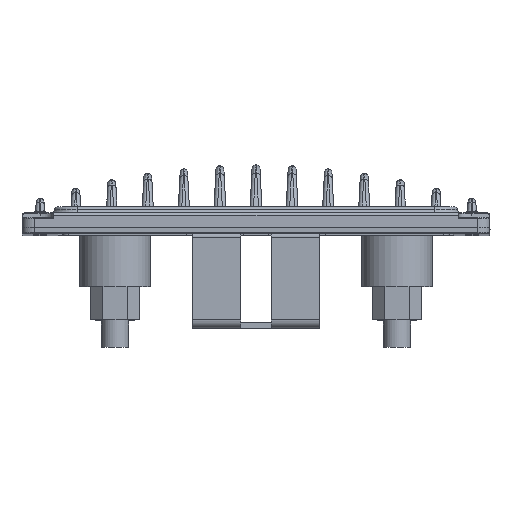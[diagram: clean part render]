
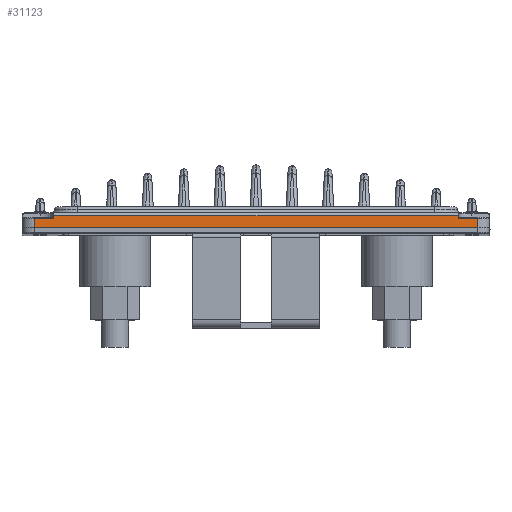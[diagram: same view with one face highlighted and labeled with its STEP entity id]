
A CAD part, top view. The second image highlights one B-rep face of the part: STEP entity #31123.
In plain terms, the highlighted planar face has unit normal (0, 0.018, 1).
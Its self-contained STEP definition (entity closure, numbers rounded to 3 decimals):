
#1328=LINE('',#44833,#2961);
#1403=LINE('',#47988,#3036);
#1404=LINE('',#48156,#3037);
#1407=LINE('',#48180,#3040);
#1408=LINE('',#48182,#3041);
#1409=LINE('',#48184,#3042);
#1410=LINE('',#48186,#3043);
#1411=LINE('',#48188,#3044);
#2961=VECTOR('',#35062,1000.);
#3036=VECTOR('',#35401,1000.);
#3037=VECTOR('',#35408,1000.);
#3040=VECTOR('',#35417,1000.);
#3041=VECTOR('',#35420,1000.);
#3042=VECTOR('',#35421,1000.);
#3043=VECTOR('',#35422,1000.);
#3044=VECTOR('',#35423,1000.);
#4425=PLANE('',#32712);
#5697=ORIENTED_EDGE('',*,*,#12182,.F.);
#5698=ORIENTED_EDGE('',*,*,#12178,.T.);
#5699=ORIENTED_EDGE('',*,*,#12188,.T.);
#5700=ORIENTED_EDGE('',*,*,#12189,.F.);
#5701=ORIENTED_EDGE('',*,*,#12190,.F.);
#5702=ORIENTED_EDGE('',*,*,#12191,.T.);
#5703=ORIENTED_EDGE('',*,*,#11990,.F.);
#5704=ORIENTED_EDGE('',*,*,#12187,.T.);
#11990=EDGE_CURVE('',#15308,#15309,#1328,.T.);
#12178=EDGE_CURVE('',#15432,#15431,#1403,.T.);
#12182=EDGE_CURVE('',#15432,#15433,#1404,.T.);
#12187=EDGE_CURVE('',#15308,#15433,#1407,.T.);
#12188=EDGE_CURVE('',#15431,#15435,#1408,.T.);
#12189=EDGE_CURVE('',#15436,#15435,#1409,.T.);
#12190=EDGE_CURVE('',#15437,#15436,#1410,.T.);
#12191=EDGE_CURVE('',#15437,#15309,#1411,.T.);
#15308=VERTEX_POINT('',#44808);
#15309=VERTEX_POINT('',#44834);
#15431=VERTEX_POINT('',#47956);
#15432=VERTEX_POINT('',#47989);
#15433=VERTEX_POINT('',#48157);
#15435=VERTEX_POINT('',#48183);
#15436=VERTEX_POINT('',#48185);
#15437=VERTEX_POINT('',#48187);
#18138=EDGE_LOOP('',(#5697,#5698,#5699,#5700,#5701,#5702,#5703,#5704));
#19707=FACE_BOUND('',#18138,.T.);
#31123=ADVANCED_FACE('',(#19707),#4425,.T.);
#32712=AXIS2_PLACEMENT_3D('',#48181,#35418,#35419);
#35062=DIRECTION('',(1.,0.,0.));
#35401=DIRECTION('',(-0.017,-1.,0.017));
#35408=DIRECTION('',(1.,0.,0.));
#35417=DIRECTION('',(-0.087,-0.996,0.017));
#35418=DIRECTION('',(0.,0.017,1.));
#35419=DIRECTION('',(1.,0.,0.));
#35420=DIRECTION('',(1.,0.,0.));
#35421=DIRECTION('',(0.017,-1.,0.017));
#35422=DIRECTION('',(1.,0.,0.));
#35423=DIRECTION('',(-0.087,0.996,-0.017));
#44808=CARTESIAN_POINT('',(-67.004,3.017,184.933));
#44833=CARTESIAN_POINT('',(-67.004,3.017,184.933));
#44834=CARTESIAN_POINT('',(67.004,3.017,184.933));
#47956=CARTESIAN_POINT('',(-73.501,-0.8,185.));
#47988=CARTESIAN_POINT('',(-73.448,2.205,184.948));
#47989=CARTESIAN_POINT('',(-73.448,2.205,184.948));
#48156=CARTESIAN_POINT('',(-73.448,2.205,184.948));
#48157=CARTESIAN_POINT('',(-67.075,2.205,184.948));
#48180=CARTESIAN_POINT('',(-67.004,3.017,184.933));
#48181=CARTESIAN_POINT('',(-77.5,-0.8,185.));
#48182=CARTESIAN_POINT('',(-73.501,-0.8,185.));
#48183=CARTESIAN_POINT('',(73.501,-0.8,185.));
#48184=CARTESIAN_POINT('',(73.448,2.205,184.948));
#48185=CARTESIAN_POINT('',(73.448,2.205,184.948));
#48186=CARTESIAN_POINT('',(67.075,2.205,184.948));
#48187=CARTESIAN_POINT('',(67.075,2.205,184.948));
#48188=CARTESIAN_POINT('',(67.075,2.205,184.948));
